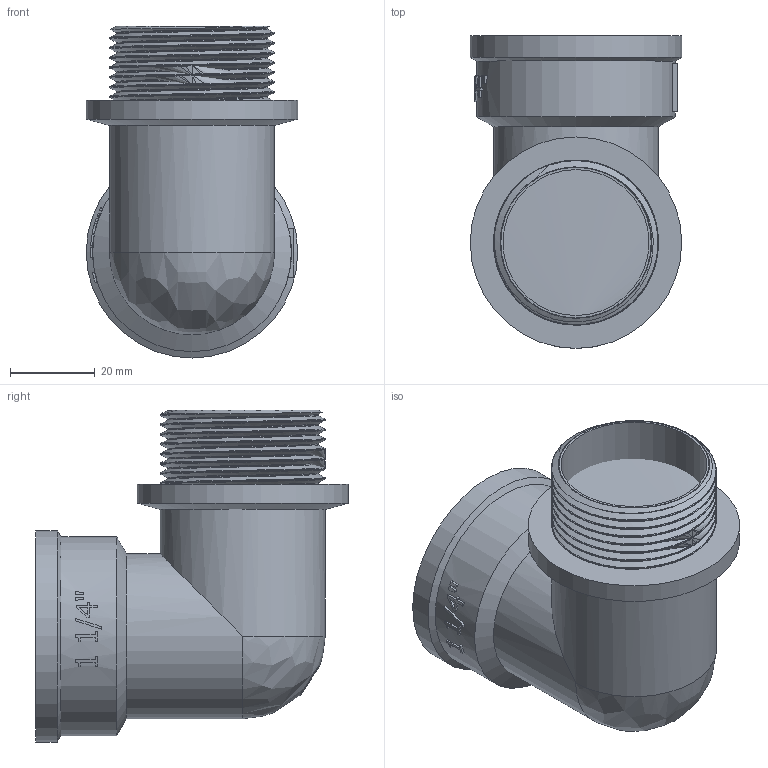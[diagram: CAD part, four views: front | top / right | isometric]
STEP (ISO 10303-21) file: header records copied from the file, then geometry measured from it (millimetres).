
FILE_DESCRIPTION(/* description */ (''),/* implementation_level */ '2;1');
FILE_NAME(/* name */ 'C:\Users\Doom\Desktop\Фадотех\Резьба\U14 18.03.2020\U14 18.03.2020.stp',/* time_stamp */ '2022-01-22T00:22:05+02:00',/* author */ ('Doom'),/* organization */ (''),/* preprocessor_version */ 'ST-DEVELOPER v18',/* originating_system */ 'Autodesk Inventor 2020',/* authorisation */ '');
FILE_SCHEMA (('AUTOMOTIVE_DESIGN { 1 0 10303 214 3 1 1 }'));
Length unit declared in the file: millimetre
Products named in the file (1): U12 18.03.2020
Bounding box: 50 x 74 x 78.5 mm (x, y, z)
Volume: 39757.5 mm3; surface area: 40436.9 mm2
Topology: 3 solids, 3 shells, 141 faces, 384 edges, 254 vertices
Faces by surface type: plane 77, cylinder 39, bspline 20, cone 5
Full cylindrical faces by diameter (mm): 34.5 x3, 35.576 x2, 38.476 x8, 39 x10, 41.9 x2, 47 x1, 50 x2
Entity records: 13184 total; most frequent: CARTESIAN_POINT 9706, ORIENTED_EDGE 752, DIRECTION 656, EDGE_CURVE 376, VERTEX_POINT 252, AXIS2_PLACEMENT_3D 243, LINE 170, VECTOR 170
